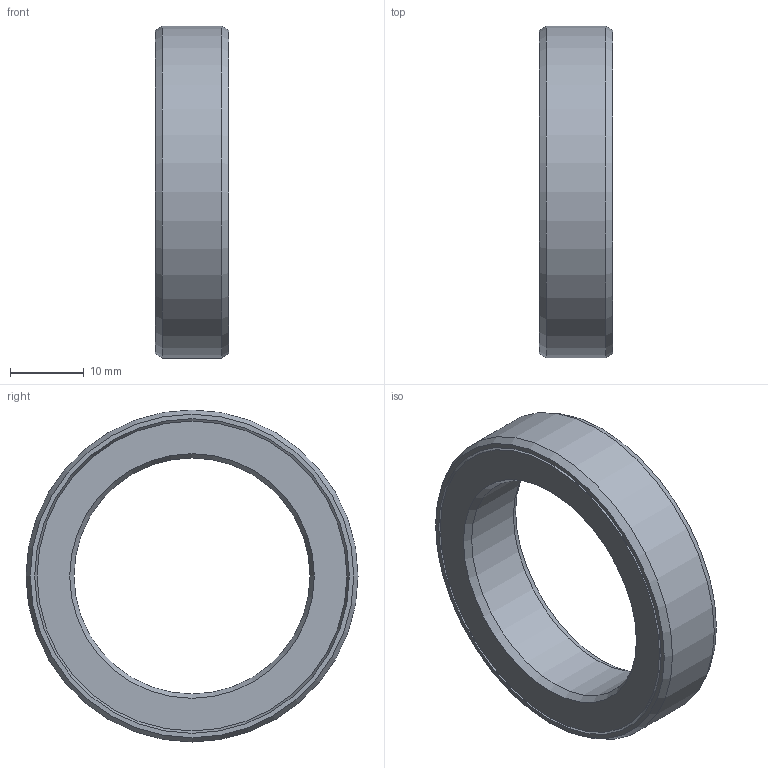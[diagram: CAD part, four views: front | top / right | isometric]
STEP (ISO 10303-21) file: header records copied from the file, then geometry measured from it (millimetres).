
FILE_DESCRIPTION(/* description */ (''),/* implementation_level */ '2;1');
FILE_NAME(/* name */ '301192 L 32x45x10.stp',/* time_stamp */ '2016-12-15T09:15:18+01:00',/* author */ (''),/* organization */ (''),/* preprocessor_version */ 'ST-DEVELOPER v15',/* originating_system */ 'SIEMENS PLM Software NX 8.5',/* authorisation */ '');
FILE_SCHEMA (('CONFIG_CONTROL_DESIGN'));
Length unit declared in the file: millimetre
Products named in the file (1): ATE0000122_01
Bounding box: 10 x 45 x 45 mm (x, y, z)
Volume: 7268 mm3; surface area: 6729.8 mm2
Topology: 2 solids, 2 shells, 18 faces, 34 edges, 20 vertices
Faces by surface type: cone 12, plane 4, cylinder 2
Full cylindrical faces by diameter (mm): 32 x1, 45 x1
Entity records: 454 total; most frequent: DIRECTION 74, CARTESIAN_POINT 55, AXIS2_PLACEMENT_3D 37, FACE_BOUND 36, EDGE_LOOP 36, ORIENTED_EDGE 36, ADVANCED_FACE 18, VERTEX_POINT 18
